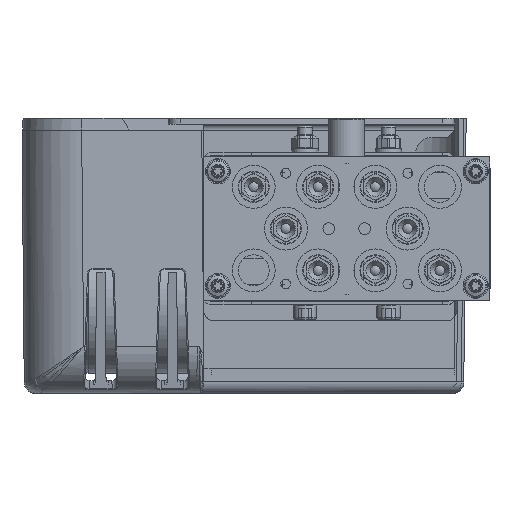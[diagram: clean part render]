
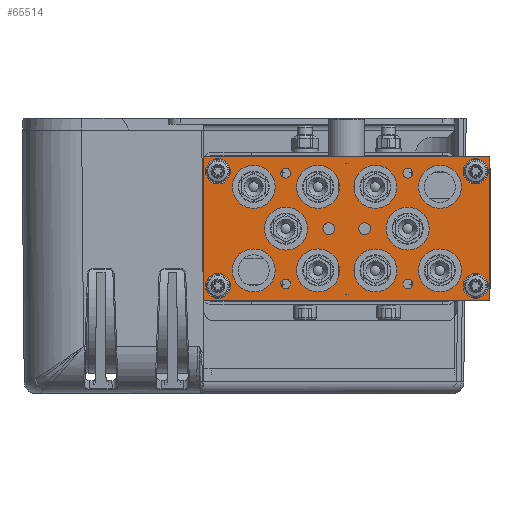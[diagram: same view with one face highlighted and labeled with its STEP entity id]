
A CAD part, left-side view. The second image highlights one B-rep face of the part: STEP entity #65514.
In plain terms, the highlighted planar face has unit normal (-1, 0, 0) as drawn and (0, 0, 1) by its records, which use the part's own axes.
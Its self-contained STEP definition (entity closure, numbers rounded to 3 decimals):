
#5916=LINE('',#113010,#8629);
#5920=LINE('',#113021,#8633);
#5924=LINE('',#113166,#8637);
#5925=LINE('',#113167,#8638);
#8629=VECTOR('',#76487,1000.);
#8633=VECTOR('',#76495,1000.);
#8637=VECTOR('',#76655,1000.);
#8638=VECTOR('',#76656,1000.);
#10743=PLANE('',#69447);
#16170=ORIENTED_EDGE('',*,*,#29796,.F.);
#16171=ORIENTED_EDGE('',*,*,#29797,.F.);
#16172=ORIENTED_EDGE('',*,*,#29798,.F.);
#16173=ORIENTED_EDGE('',*,*,#29799,.F.);
#16174=ORIENTED_EDGE('',*,*,#29800,.F.);
#16175=ORIENTED_EDGE('',*,*,#29801,.F.);
#16176=ORIENTED_EDGE('',*,*,#29802,.T.);
#16177=ORIENTED_EDGE('',*,*,#29803,.T.);
#16178=ORIENTED_EDGE('',*,*,#29804,.T.);
#16179=ORIENTED_EDGE('',*,*,#29805,.T.);
#16180=ORIENTED_EDGE('',*,*,#29806,.T.);
#16181=ORIENTED_EDGE('',*,*,#29807,.T.);
#16182=ORIENTED_EDGE('',*,*,#29808,.T.);
#16183=ORIENTED_EDGE('',*,*,#29738,.T.);
#16184=ORIENTED_EDGE('',*,*,#29809,.T.);
#16185=ORIENTED_EDGE('',*,*,#29743,.T.);
#16186=ORIENTED_EDGE('',*,*,#29810,.T.);
#16187=ORIENTED_EDGE('',*,*,#29811,.T.);
#16188=ORIENTED_EDGE('',*,*,#29812,.T.);
#16189=ORIENTED_EDGE('',*,*,#29813,.T.);
#16190=ORIENTED_EDGE('',*,*,#29814,.T.);
#16191=ORIENTED_EDGE('',*,*,#29815,.T.);
#16192=ORIENTED_EDGE('',*,*,#29816,.T.);
#16193=ORIENTED_EDGE('',*,*,#29817,.T.);
#29738=EDGE_CURVE('',#36836,#36835,#5916,.T.);
#29743=EDGE_CURVE('',#36841,#36840,#5920,.T.);
#29796=EDGE_CURVE('',#36891,#36891,#41336,.T.);
#29797=EDGE_CURVE('',#36892,#36892,#41337,.T.);
#29798=EDGE_CURVE('',#36893,#36893,#41338,.T.);
#29799=EDGE_CURVE('',#36894,#36894,#41339,.T.);
#29800=EDGE_CURVE('',#36895,#36895,#41340,.T.);
#29801=EDGE_CURVE('',#36896,#36896,#41341,.T.);
#29802=EDGE_CURVE('',#36897,#36897,#41342,.T.);
#29803=EDGE_CURVE('',#36898,#36898,#41343,.T.);
#29804=EDGE_CURVE('',#36899,#36899,#41344,.T.);
#29805=EDGE_CURVE('',#36900,#36900,#41345,.T.);
#29806=EDGE_CURVE('',#36901,#36901,#41346,.T.);
#29807=EDGE_CURVE('',#36902,#36902,#41347,.T.);
#29808=EDGE_CURVE('',#36903,#36903,#41348,.T.);
#29809=EDGE_CURVE('',#36835,#36841,#5924,.T.);
#29810=EDGE_CURVE('',#36840,#36836,#5925,.T.);
#29811=EDGE_CURVE('',#36904,#36904,#41349,.T.);
#29812=EDGE_CURVE('',#36905,#36905,#41350,.T.);
#29813=EDGE_CURVE('',#36906,#36906,#41351,.T.);
#29814=EDGE_CURVE('',#36907,#36907,#41352,.T.);
#29815=EDGE_CURVE('',#36908,#36908,#41353,.T.);
#29816=EDGE_CURVE('',#36909,#36909,#41354,.T.);
#29817=EDGE_CURVE('',#36910,#36910,#41355,.T.);
#36835=VERTEX_POINT('',#113009);
#36836=VERTEX_POINT('',#113011);
#36840=VERTEX_POINT('',#113020);
#36841=VERTEX_POINT('',#113022);
#36891=VERTEX_POINT('',#113141);
#36892=VERTEX_POINT('',#113143);
#36893=VERTEX_POINT('',#113145);
#36894=VERTEX_POINT('',#113147);
#36895=VERTEX_POINT('',#113149);
#36896=VERTEX_POINT('',#113151);
#36897=VERTEX_POINT('',#113153);
#36898=VERTEX_POINT('',#113155);
#36899=VERTEX_POINT('',#113157);
#36900=VERTEX_POINT('',#113159);
#36901=VERTEX_POINT('',#113161);
#36902=VERTEX_POINT('',#113163);
#36903=VERTEX_POINT('',#113165);
#36904=VERTEX_POINT('',#113169);
#36905=VERTEX_POINT('',#113171);
#36906=VERTEX_POINT('',#113173);
#36907=VERTEX_POINT('',#113175);
#36908=VERTEX_POINT('',#113177);
#36909=VERTEX_POINT('',#113179);
#36910=VERTEX_POINT('',#113181);
#41336=CIRCLE('',#69448,2.067);
#41337=CIRCLE('',#69449,2.067);
#41338=CIRCLE('',#69450,2.067);
#41339=CIRCLE('',#69451,2.067);
#41340=CIRCLE('',#69452,2.459);
#41341=CIRCLE('',#69453,2.459);
#41342=CIRCLE('',#69454,9.);
#41343=CIRCLE('',#69455,9.);
#41344=CIRCLE('',#69456,9.);
#41345=CIRCLE('',#69457,9.);
#41346=CIRCLE('',#69458,9.);
#41347=CIRCLE('',#69459,5.25);
#41348=CIRCLE('',#69460,5.25);
#41349=CIRCLE('',#69461,5.25);
#41350=CIRCLE('',#69462,9.);
#41351=CIRCLE('',#69463,9.);
#41352=CIRCLE('',#69464,9.);
#41353=CIRCLE('',#69465,9.);
#41354=CIRCLE('',#69466,9.);
#41355=CIRCLE('',#69467,5.25);
#43870=EDGE_LOOP('',(#16170));
#43871=EDGE_LOOP('',(#16171));
#43872=EDGE_LOOP('',(#16172));
#43873=EDGE_LOOP('',(#16173));
#43874=EDGE_LOOP('',(#16174));
#43875=EDGE_LOOP('',(#16175));
#43876=EDGE_LOOP('',(#16176));
#43877=EDGE_LOOP('',(#16177));
#43878=EDGE_LOOP('',(#16178));
#43879=EDGE_LOOP('',(#16179));
#43880=EDGE_LOOP('',(#16180));
#43881=EDGE_LOOP('',(#16181));
#43882=EDGE_LOOP('',(#16182));
#43883=EDGE_LOOP('',(#16183,#16184,#16185,#16186));
#43884=EDGE_LOOP('',(#16187));
#43885=EDGE_LOOP('',(#16188));
#43886=EDGE_LOOP('',(#16189));
#43887=EDGE_LOOP('',(#16190));
#43888=EDGE_LOOP('',(#16191));
#43889=EDGE_LOOP('',(#16192));
#43890=EDGE_LOOP('',(#16193));
#47866=FACE_BOUND('',#43870,.T.);
#47867=FACE_BOUND('',#43871,.T.);
#47868=FACE_BOUND('',#43872,.T.);
#47869=FACE_BOUND('',#43873,.T.);
#47870=FACE_BOUND('',#43874,.T.);
#47871=FACE_BOUND('',#43875,.T.);
#47872=FACE_BOUND('',#43876,.T.);
#47873=FACE_BOUND('',#43877,.T.);
#47874=FACE_BOUND('',#43878,.T.);
#47875=FACE_BOUND('',#43879,.T.);
#47876=FACE_BOUND('',#43880,.T.);
#47877=FACE_BOUND('',#43881,.T.);
#47878=FACE_BOUND('',#43882,.T.);
#47879=FACE_BOUND('',#43883,.T.);
#47880=FACE_BOUND('',#43884,.T.);
#47881=FACE_BOUND('',#43885,.T.);
#47882=FACE_BOUND('',#43886,.T.);
#47883=FACE_BOUND('',#43887,.T.);
#47884=FACE_BOUND('',#43888,.T.);
#47885=FACE_BOUND('',#43889,.T.);
#47886=FACE_BOUND('',#43890,.T.);
#65514=ADVANCED_FACE('',(#47866,#47867,#47868,#47869,#47870,#47871,#47872,
#47873,#47874,#47875,#47876,#47877,#47878,#47879,#47880,#47881,#47882,#47883,
#47884,#47885,#47886),#10743,.T.);
#69447=AXIS2_PLACEMENT_3D('',#113139,#76627,#76628);
#69448=AXIS2_PLACEMENT_3D('',#113140,#76629,#76630);
#69449=AXIS2_PLACEMENT_3D('',#113142,#76631,#76632);
#69450=AXIS2_PLACEMENT_3D('',#113144,#76633,#76634);
#69451=AXIS2_PLACEMENT_3D('',#113146,#76635,#76636);
#69452=AXIS2_PLACEMENT_3D('',#113148,#76637,#76638);
#69453=AXIS2_PLACEMENT_3D('',#113150,#76639,#76640);
#69454=AXIS2_PLACEMENT_3D('',#113152,#76641,#76642);
#69455=AXIS2_PLACEMENT_3D('',#113154,#76643,#76644);
#69456=AXIS2_PLACEMENT_3D('',#113156,#76645,#76646);
#69457=AXIS2_PLACEMENT_3D('',#113158,#76647,#76648);
#69458=AXIS2_PLACEMENT_3D('',#113160,#76649,#76650);
#69459=AXIS2_PLACEMENT_3D('',#113162,#76651,#76652);
#69460=AXIS2_PLACEMENT_3D('',#113164,#76653,#76654);
#69461=AXIS2_PLACEMENT_3D('',#113168,#76657,#76658);
#69462=AXIS2_PLACEMENT_3D('',#113170,#76659,#76660);
#69463=AXIS2_PLACEMENT_3D('',#113172,#76661,#76662);
#69464=AXIS2_PLACEMENT_3D('',#113174,#76663,#76664);
#69465=AXIS2_PLACEMENT_3D('',#113176,#76665,#76666);
#69466=AXIS2_PLACEMENT_3D('',#113178,#76667,#76668);
#69467=AXIS2_PLACEMENT_3D('',#113180,#76669,#76670);
#76487=DIRECTION('',(-1.,0.,0.));
#76495=DIRECTION('',(1.,0.,0.));
#76627=DIRECTION('',(0.,0.,1.));
#76628=DIRECTION('',(1.,0.,0.));
#76629=DIRECTION('',(0.,0.,1.));
#76630=DIRECTION('',(1.,0.,0.));
#76631=DIRECTION('',(0.,0.,1.));
#76632=DIRECTION('',(1.,0.,0.));
#76633=DIRECTION('',(0.,0.,1.));
#76634=DIRECTION('',(1.,0.,0.));
#76635=DIRECTION('',(0.,0.,1.));
#76636=DIRECTION('',(1.,0.,0.));
#76637=DIRECTION('',(0.,0.,1.));
#76638=DIRECTION('',(1.,0.,0.));
#76639=DIRECTION('',(0.,0.,1.));
#76640=DIRECTION('',(1.,0.,0.));
#76641=DIRECTION('',(0.,0.,-1.));
#76642=DIRECTION('',(1.,0.,0.));
#76643=DIRECTION('',(0.,0.,-1.));
#76644=DIRECTION('',(1.,0.,0.));
#76645=DIRECTION('',(0.,0.,-1.));
#76646=DIRECTION('',(1.,0.,0.));
#76647=DIRECTION('',(0.,0.,-1.));
#76648=DIRECTION('',(1.,0.,0.));
#76649=DIRECTION('',(0.,0.,-1.));
#76650=DIRECTION('',(1.,0.,0.));
#76651=DIRECTION('',(0.,0.,-1.));
#76652=DIRECTION('',(1.,0.,0.));
#76653=DIRECTION('',(0.,0.,-1.));
#76654=DIRECTION('',(1.,0.,0.));
#76655=DIRECTION('',(0.,-1.,0.));
#76656=DIRECTION('',(0.,1.,0.));
#76657=DIRECTION('',(0.,0.,-1.));
#76658=DIRECTION('',(1.,0.,0.));
#76659=DIRECTION('',(0.,0.,-1.));
#76660=DIRECTION('',(1.,0.,0.));
#76661=DIRECTION('',(0.,0.,-1.));
#76662=DIRECTION('',(1.,0.,0.));
#76663=DIRECTION('',(0.,0.,-1.));
#76664=DIRECTION('',(1.,0.,0.));
#76665=DIRECTION('',(0.,0.,-1.));
#76666=DIRECTION('',(1.,0.,0.));
#76667=DIRECTION('',(0.,0.,-1.));
#76668=DIRECTION('',(1.,0.,0.));
#76669=DIRECTION('',(0.,0.,-1.));
#76670=DIRECTION('',(1.,0.,0.));
#113009=CARTESIAN_POINT('',(-60.,30.,15.));
#113010=CARTESIAN_POINT('',(60.,30.,15.));
#113011=CARTESIAN_POINT('',(60.,30.,15.));
#113020=CARTESIAN_POINT('',(60.,-30.,15.));
#113021=CARTESIAN_POINT('',(-60.,-30.,15.));
#113022=CARTESIAN_POINT('',(-60.,-30.,15.));
#113139=CARTESIAN_POINT('',(-60.,30.,15.));
#113140=CARTESIAN_POINT('',(25.6,23.2,15.));
#113141=CARTESIAN_POINT('',(27.667,23.2,15.));
#113142=CARTESIAN_POINT('',(-25.6,23.2,15.));
#113143=CARTESIAN_POINT('',(-23.533,23.2,15.));
#113144=CARTESIAN_POINT('',(-25.6,-23.2,15.));
#113145=CARTESIAN_POINT('',(-23.533,-23.2,15.));
#113146=CARTESIAN_POINT('',(25.6,-23.2,15.));
#113147=CARTESIAN_POINT('',(27.667,-23.2,15.));
#113148=CARTESIAN_POINT('',(7.5,0.,15.));
#113149=CARTESIAN_POINT('',(9.959,0.,15.));
#113150=CARTESIAN_POINT('',(-7.5,0.,15.));
#113151=CARTESIAN_POINT('',(-5.041,0.,15.));
#113152=CARTESIAN_POINT('',(25.5,0.,15.));
#113153=CARTESIAN_POINT('',(34.5,0.,15.));
#113154=CARTESIAN_POINT('',(39.,17.5,15.));
#113155=CARTESIAN_POINT('',(48.,17.5,15.));
#113156=CARTESIAN_POINT('',(-39.,-17.5,15.));
#113157=CARTESIAN_POINT('',(-30.,-17.5,15.));
#113158=CARTESIAN_POINT('',(-12.,-17.5,15.));
#113159=CARTESIAN_POINT('',(-3.,-17.5,15.));
#113160=CARTESIAN_POINT('',(12.,17.5,15.));
#113161=CARTESIAN_POINT('',(21.,17.5,15.));
#113162=CARTESIAN_POINT('',(-54.,-24.,15.));
#113163=CARTESIAN_POINT('',(-48.75,-24.,15.));
#113164=CARTESIAN_POINT('',(54.,24.,15.));
#113165=CARTESIAN_POINT('',(59.25,24.,15.));
#113166=CARTESIAN_POINT('',(-60.,30.,15.));
#113167=CARTESIAN_POINT('',(60.,-30.,15.));
#113168=CARTESIAN_POINT('',(54.,-24.,15.));
#113169=CARTESIAN_POINT('',(59.25,-24.,15.));
#113170=CARTESIAN_POINT('',(-12.,17.5,15.));
#113171=CARTESIAN_POINT('',(-3.,17.5,15.));
#113172=CARTESIAN_POINT('',(12.,-17.5,15.));
#113173=CARTESIAN_POINT('',(21.,-17.5,15.));
#113174=CARTESIAN_POINT('',(-39.,17.5,15.));
#113175=CARTESIAN_POINT('',(-30.,17.5,15.));
#113176=CARTESIAN_POINT('',(39.,-17.5,15.));
#113177=CARTESIAN_POINT('',(48.,-17.5,15.));
#113178=CARTESIAN_POINT('',(-25.5,0.,15.));
#113179=CARTESIAN_POINT('',(-16.5,0.,15.));
#113180=CARTESIAN_POINT('',(-54.,24.,15.));
#113181=CARTESIAN_POINT('',(-48.75,24.,15.));
